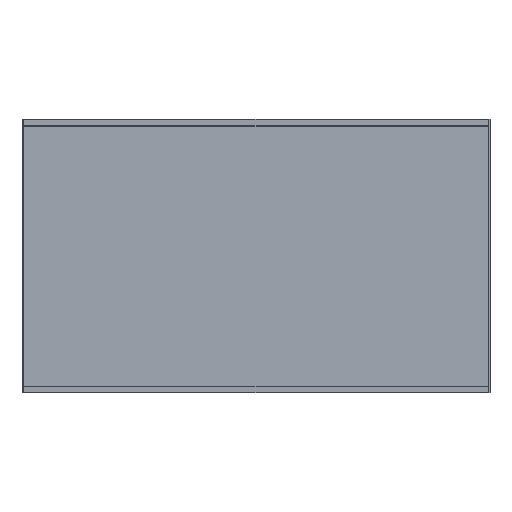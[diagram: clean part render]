
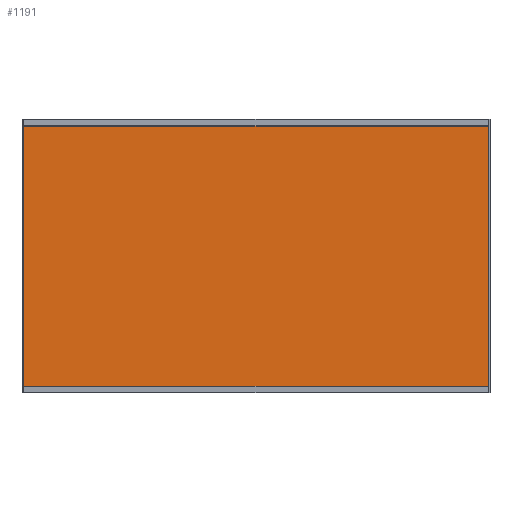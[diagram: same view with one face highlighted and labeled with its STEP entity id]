
A CAD part, front view. The second image highlights one B-rep face of the part: STEP entity #1191.
In plain terms, the highlighted planar face has unit normal (0, -1, 0).
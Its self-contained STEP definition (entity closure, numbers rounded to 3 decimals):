
#66=PLANE('',#1293);
#129=FACE_OUTER_BOUND('',#199,.T.);
#199=EDGE_LOOP('',(#1006,#1007,#1008,#1009));
#319=LINE('',#1857,#457);
#322=LINE('',#1863,#460);
#323=LINE('',#1865,#461);
#324=LINE('',#1866,#462);
#457=VECTOR('',#1539,10.);
#460=VECTOR('',#1544,10.);
#461=VECTOR('',#1545,10.);
#462=VECTOR('',#1546,10.);
#589=VERTEX_POINT('',#1854);
#590=VERTEX_POINT('',#1856);
#592=VERTEX_POINT('',#1862);
#593=VERTEX_POINT('',#1864);
#731=EDGE_CURVE('',#589,#590,#319,.T.);
#734=EDGE_CURVE('',#592,#589,#322,.T.);
#735=EDGE_CURVE('',#593,#592,#323,.T.);
#736=EDGE_CURVE('',#590,#593,#324,.T.);
#1006=ORIENTED_EDGE('',*,*,#734,.F.);
#1007=ORIENTED_EDGE('',*,*,#735,.F.);
#1008=ORIENTED_EDGE('',*,*,#736,.F.);
#1009=ORIENTED_EDGE('',*,*,#731,.F.);
#1191=ADVANCED_FACE('',(#129),#66,.T.);
#1293=AXIS2_PLACEMENT_3D('',#1861,#1542,#1543);
#1539=DIRECTION('',(0.,0.,1.));
#1542=DIRECTION('center_axis',(0.,-1.,0.));
#1543=DIRECTION('ref_axis',(0.,0.,-1.));
#1544=DIRECTION('',(-1.,0.,0.));
#1545=DIRECTION('',(0.,0.,-1.));
#1546=DIRECTION('',(1.,0.,0.));
#1854=CARTESIAN_POINT('',(-598.,-30.75,16.));
#1856=CARTESIAN_POINT('',(-598.,-30.75,683.));
#1857=CARTESIAN_POINT('',(-598.,-30.75,683.));
#1861=CARTESIAN_POINT('Origin',(0.,-30.75,683.));
#1862=CARTESIAN_POINT('',(598.,-30.75,16.));
#1863=CARTESIAN_POINT('',(0.,-30.75,16.));
#1864=CARTESIAN_POINT('',(598.,-30.75,683.));
#1865=CARTESIAN_POINT('',(598.,-30.75,683.));
#1866=CARTESIAN_POINT('',(0.,-30.75,683.));
